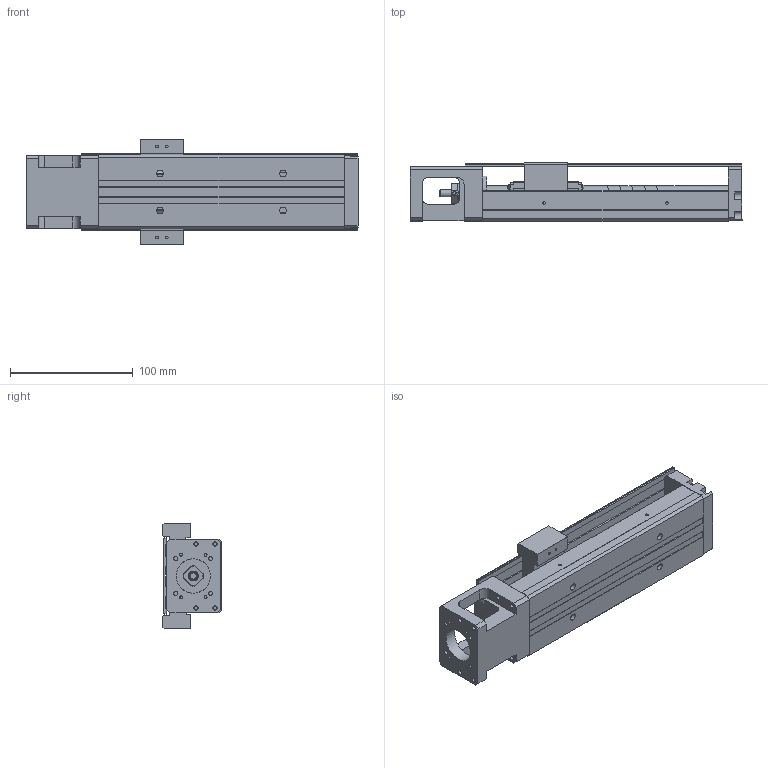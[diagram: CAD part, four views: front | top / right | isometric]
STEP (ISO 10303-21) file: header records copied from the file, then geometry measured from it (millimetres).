
FILE_DESCRIPTION(/* description */ (''),/* implementation_level */ '2;1');
FILE_NAME(/* name */ 'KP33S-200-C.stp',/* time_stamp */ '2020-06-04T17:44:49+08:00',/* author */ (''),/* organization */ (''),/* preprocessor_version */ 'ST-DEVELOPER v14',/* originating_system */ 'SIEMENS PLM Software NX 8.0',/* authorisation */ '');
FILE_SCHEMA (('AUTOMOTIVE_DESIGN { 1 0 10303 214 3 1 1 1 }'));
Length unit declared in the file: millimetre
Products named in the file (1): model1
Bounding box: 270 x 47.95 x 86 mm (x, y, z)
Volume: 404480.4 mm3; surface area: 139042.5 mm2
Topology: 7 solids, 12 shells, 670 faces, 1718 edges, 1134 vertices
Faces by surface type: plane 404, cylinder 181, bspline 31, cone 22, extrusion 21, torus 9, revolution 2
Full cylindrical faces by diameter (mm): 1.6 x2, 1.65 x4, 2.15 x6, 2.42 x4, 2.45 x8, 2.5 x12, 3.2 x4, 3.3 x4, 3.4 x4, 3.5 x10, 3.969 x1, 4 x4, 4.001 x1, 4.135 x2, 4.2 x2, 5.5 x4, 6 x5, 7.6 x1, 8 x5, 9.5 x4, 10.72 x3, 11.8 x2, 12 x6, 12.8 x1, 13 x2, 14 x1, 17.38 x3, 21.5 x1, 22 x2, 28 x1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
Entity records: 35358 total; most frequent: CARTESIAN_POINT 16300, DIRECTION 3054, ORIENTED_EDGE 3002, EDGE_CURVE 1501, VERTEX_POINT 1059, AXIS2_PLACEMENT_3D 1051, VECTOR 950, EDGE_LOOP 936
